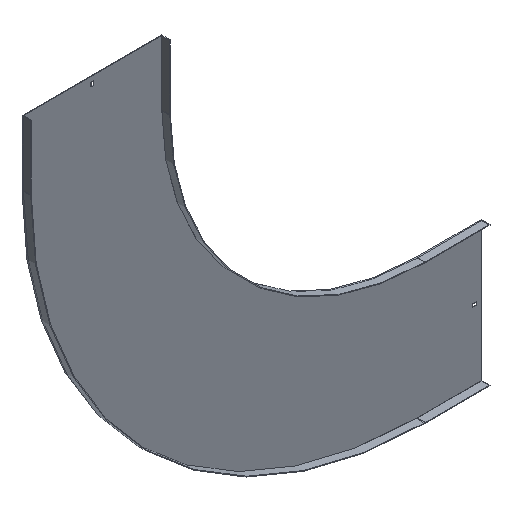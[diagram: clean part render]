
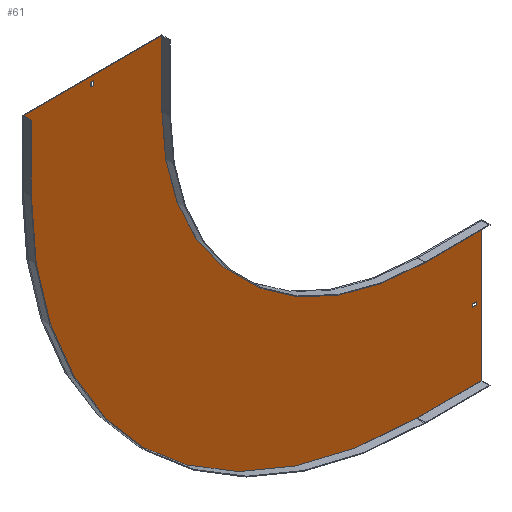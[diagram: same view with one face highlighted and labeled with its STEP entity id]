
A CAD part, isometric view. The second image highlights one B-rep face of the part: STEP entity #61.
In plain terms, the highlighted planar face has unit normal (0, -1, 0).
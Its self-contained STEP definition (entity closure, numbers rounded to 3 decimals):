
#9 = CARTESIAN_POINT ( 'NONE',  ( -910., -1.5, 0. ) ) ;
#10 = VECTOR ( 'NONE', #221, 1000. ) ;
#18 = VERTEX_POINT ( 'NONE', #686 ) ;
#32 = DIRECTION ( 'NONE',  ( 0., 0., 1. ) ) ;
#34 = DIRECTION ( 'NONE',  ( 0., 0., -1. ) ) ;
#36 = CARTESIAN_POINT ( 'NONE',  ( 0., -1.5, -590. ) ) ;
#45 = CARTESIAN_POINT ( 'NONE',  ( 0., -1.5, -746.75 ) ) ;
#61 = ADVANCED_FACE ( 'NONE', ( #755, #217, #212 ), #552, .T. ) ;
#70 = VERTEX_POINT ( 'NONE', #150 ) ;
#74 = LINE ( 'NONE', #687, #590 ) ;
#76 = ORIENTED_EDGE ( 'NONE', *, *, #177, .T. ) ;
#82 = EDGE_LOOP ( 'NONE', ( #76, #250, #408, #636 ) ) ;
#94 = DIRECTION ( 'NONE',  ( 0., 0., -1. ) ) ;
#96 = LINE ( 'NONE', #162, #108 ) ;
#101 = CARTESIAN_POINT ( 'NONE',  ( 150., -1.5, -588.5 ) ) ;
#108 = VECTOR ( 'NONE', #639, 1000. ) ;
#116 = CARTESIAN_POINT ( 'NONE',  ( -911.5, -1.5, 150. ) ) ;
#125 = ORIENTED_EDGE ( 'NONE', *, *, #462, .F. ) ;
#126 = VERTEX_POINT ( 'NONE', #307 ) ;
#128 = DIRECTION ( 'NONE',  ( 1., 0., 0. ) ) ;
#143 = DIRECTION ( 'NONE',  ( 0., 0., -1. ) ) ;
#150 = CARTESIAN_POINT ( 'NONE',  ( -746.75, -1.5, 138. ) ) ;
#155 = LINE ( 'NONE', #101, #858 ) ;
#156 = DIRECTION ( 'NONE',  ( 1., 0., 0. ) ) ;
#162 = CARTESIAN_POINT ( 'NONE',  ( 0., -1.5, 138. ) ) ;
#165 = CARTESIAN_POINT ( 'NONE',  ( 129., -1.5, -746.75 ) ) ;
#167 = CARTESIAN_POINT ( 'NONE',  ( 0., -1.5, -590. ) ) ;
#175 = VECTOR ( 'NONE', #34, 1000. ) ;
#177 = EDGE_CURVE ( 'NONE', #817, #70, #96, .T. ) ;
#179 = AXIS2_PLACEMENT_3D ( 'NONE', #237, #518, #94 ) ;
#181 = EDGE_CURVE ( 'NONE', #70, #670, #644, .T. ) ;
#193 = VECTOR ( 'NONE', #156, 1000. ) ;
#206 = EDGE_CURVE ( 'NONE', #790, #604, #459, .T. ) ;
#212 = FACE_BOUND ( 'NONE', #82, .T. ) ;
#215 = DIRECTION ( 'NONE',  ( 0., 0., -1. ) ) ;
#216 = DIRECTION ( 'NONE',  ( 0., 0., 1. ) ) ;
#217 = FACE_OUTER_BOUND ( 'NONE', #461, .T. ) ;
#221 = DIRECTION ( 'NONE',  ( -1., 0., 0. ) ) ;
#226 = ORIENTED_EDGE ( 'NONE', *, *, #582, .F. ) ;
#237 = CARTESIAN_POINT ( 'NONE',  ( 0., -1.5, 0. ) ) ;
#244 = AXIS2_PLACEMENT_3D ( 'NONE', #336, #409, #798 ) ;
#248 = ORIENTED_EDGE ( 'NONE', *, *, #206, .F. ) ;
#249 = VECTOR ( 'NONE', #252, 1000. ) ;
#250 = ORIENTED_EDGE ( 'NONE', *, *, #181, .T. ) ;
#252 = DIRECTION ( 'NONE',  ( 0., 0., 1. ) ) ;
#259 = CARTESIAN_POINT ( 'NONE',  ( 150., -1.5, -590. ) ) ;
#264 = AXIS2_PLACEMENT_3D ( 'NONE', #813, #493, #215 ) ;
#265 = CIRCLE ( 'NONE', #244, 910. ) ;
#280 = VECTOR ( 'NONE', #216, 1000. ) ;
#287 = CARTESIAN_POINT ( 'NONE',  ( 0., -1.5, 129. ) ) ;
#296 = CARTESIAN_POINT ( 'NONE',  ( 150., -1.5, -910. ) ) ;
#299 = EDGE_CURVE ( 'NONE', #126, #817, #321, .T. ) ;
#302 = LINE ( 'NONE', #503, #468 ) ;
#307 = CARTESIAN_POINT ( 'NONE',  ( -753.25, -1.5, 129. ) ) ;
#309 = DIRECTION ( 'NONE',  ( -1., 0., 0. ) ) ;
#316 = ORIENTED_EDGE ( 'NONE', *, *, #499, .F. ) ;
#321 = LINE ( 'NONE', #591, #249 ) ;
#336 = CARTESIAN_POINT ( 'NONE',  ( 0., -1.5, 0. ) ) ;
#338 = LINE ( 'NONE', #287, #10 ) ;
#341 = VERTEX_POINT ( 'NONE', #613 ) ;
#354 = EDGE_CURVE ( 'NONE', #604, #18, #74, .T. ) ;
#360 = DIRECTION ( 'NONE',  ( 0., 0., -1. ) ) ;
#364 = ORIENTED_EDGE ( 'NONE', *, *, #354, .F. ) ;
#367 = CARTESIAN_POINT ( 'NONE',  ( 0., -1.5, -753.25 ) ) ;
#384 = CARTESIAN_POINT ( 'NONE',  ( -746.75, -1.5, 129. ) ) ;
#405 = CARTESIAN_POINT ( 'NONE',  ( -590., -1.5, 150. ) ) ;
#408 = ORIENTED_EDGE ( 'NONE', *, *, #420, .T. ) ;
#409 = DIRECTION ( 'NONE',  ( 0., 1., 0. ) ) ;
#410 = EDGE_CURVE ( 'NONE', #492, #790, #678, .T. ) ;
#420 = EDGE_CURVE ( 'NONE', #670, #126, #338, .T. ) ;
#424 = VERTEX_POINT ( 'NONE', #545 ) ;
#450 = DIRECTION ( 'NONE',  ( 1., 0., 0. ) ) ;
#454 = VECTOR ( 'NONE', #32, 1000. ) ;
#459 = LINE ( 'NONE', #116, #807 ) ;
#461 = EDGE_LOOP ( 'NONE', ( #248, #541, #675, #125, #471, #785, #226, #364 ) ) ;
#462 = EDGE_CURVE ( 'NONE', #424, #559, #564, .T. ) ;
#463 = EDGE_CURVE ( 'NONE', #631, #424, #155, .T. ) ;
#465 = VERTEX_POINT ( 'NONE', #165 ) ;
#468 = VECTOR ( 'NONE', #578, 1000. ) ;
#471 = ORIENTED_EDGE ( 'NONE', *, *, #463, .F. ) ;
#472 = ORIENTED_EDGE ( 'NONE', *, *, #814, .F. ) ;
#475 = ORIENTED_EDGE ( 'NONE', *, *, #681, .F. ) ;
#492 = VERTEX_POINT ( 'NONE', #642 ) ;
#493 = DIRECTION ( 'NONE',  ( 0., -1., 0. ) ) ;
#499 = EDGE_CURVE ( 'NONE', #609, #600, #769, .T. ) ;
#503 = CARTESIAN_POINT ( 'NONE',  ( 129., -1.5, 0. ) ) ;
#506 = CARTESIAN_POINT ( 'NONE',  ( 138., -1.5, -746.75 ) ) ;
#511 = LINE ( 'NONE', #167, #193 ) ;
#518 = DIRECTION ( 'NONE',  ( 0., -1., 0. ) ) ;
#520 = CIRCLE ( 'NONE', #179, 590. ) ;
#538 = ORIENTED_EDGE ( 'NONE', *, *, #548, .F. ) ;
#541 = ORIENTED_EDGE ( 'NONE', *, *, #410, .F. ) ;
#545 = CARTESIAN_POINT ( 'NONE',  ( 150., -1.5, -910. ) ) ;
#548 = EDGE_CURVE ( 'NONE', #341, #609, #828, .T. ) ;
#552 = PLANE ( 'NONE',  #264 ) ;
#559 = VERTEX_POINT ( 'NONE', #695 ) ;
#564 = LINE ( 'NONE', #296, #573 ) ;
#573 = VECTOR ( 'NONE', #309, 1000. ) ;
#578 = DIRECTION ( 'NONE',  ( 0., 0., -1. ) ) ;
#580 = VERTEX_POINT ( 'NONE', #36 ) ;
#582 = EDGE_CURVE ( 'NONE', #18, #580, #520, .T. ) ;
#590 = VECTOR ( 'NONE', #143, 1000. ) ;
#591 = CARTESIAN_POINT ( 'NONE',  ( -753.25, -1.5, 0. ) ) ;
#600 = VERTEX_POINT ( 'NONE', #506 ) ;
#604 = VERTEX_POINT ( 'NONE', #405 ) ;
#609 = VERTEX_POINT ( 'NONE', #661 ) ;
#613 = CARTESIAN_POINT ( 'NONE',  ( 129., -1.5, -753.25 ) ) ;
#631 = VERTEX_POINT ( 'NONE', #259 ) ;
#636 = ORIENTED_EDGE ( 'NONE', *, *, #299, .T. ) ;
#639 = DIRECTION ( 'NONE',  ( 1., 0., 0. ) ) ;
#642 = CARTESIAN_POINT ( 'NONE',  ( -910., -1.5, 0. ) ) ;
#644 = LINE ( 'NONE', #830, #175 ) ;
#661 = CARTESIAN_POINT ( 'NONE',  ( 138., -1.5, -753.25 ) ) ;
#670 = VERTEX_POINT ( 'NONE', #384 ) ;
#673 = DIRECTION ( 'NONE',  ( -1., 0., 0. ) ) ;
#675 = ORIENTED_EDGE ( 'NONE', *, *, #726, .F. ) ;
#678 = LINE ( 'NONE', #9, #280 ) ;
#681 = EDGE_CURVE ( 'NONE', #600, #465, #732, .T. ) ;
#686 = CARTESIAN_POINT ( 'NONE',  ( -590., -1.5, 0. ) ) ;
#687 = CARTESIAN_POINT ( 'NONE',  ( -590., -1.5, 150. ) ) ;
#695 = CARTESIAN_POINT ( 'NONE',  ( 0., -1.5, -910. ) ) ;
#702 = VECTOR ( 'NONE', #673, 1000. ) ;
#706 = CARTESIAN_POINT ( 'NONE',  ( -753.25, -1.5, 138. ) ) ;
#708 = CARTESIAN_POINT ( 'NONE',  ( -910., -1.5, 150. ) ) ;
#726 = EDGE_CURVE ( 'NONE', #559, #492, #265, .T. ) ;
#732 = LINE ( 'NONE', #45, #702 ) ;
#746 = EDGE_LOOP ( 'NONE', ( #475, #316, #538, #472 ) ) ;
#754 = VECTOR ( 'NONE', #450, 1000. ) ;
#755 = FACE_BOUND ( 'NONE', #746, .T. ) ;
#769 = LINE ( 'NONE', #772, #454 ) ;
#772 = CARTESIAN_POINT ( 'NONE',  ( 138., -1.5, 0. ) ) ;
#785 = ORIENTED_EDGE ( 'NONE', *, *, #836, .F. ) ;
#790 = VERTEX_POINT ( 'NONE', #708 ) ;
#798 = DIRECTION ( 'NONE',  ( 0., 0., -1. ) ) ;
#807 = VECTOR ( 'NONE', #128, 1000. ) ;
#813 = CARTESIAN_POINT ( 'NONE',  ( 0., -1.5, 0. ) ) ;
#814 = EDGE_CURVE ( 'NONE', #465, #341, #302, .T. ) ;
#817 = VERTEX_POINT ( 'NONE', #706 ) ;
#828 = LINE ( 'NONE', #367, #754 ) ;
#830 = CARTESIAN_POINT ( 'NONE',  ( -746.75, -1.5, 0. ) ) ;
#836 = EDGE_CURVE ( 'NONE', #580, #631, #511, .T. ) ;
#858 = VECTOR ( 'NONE', #360, 1000. ) ;
